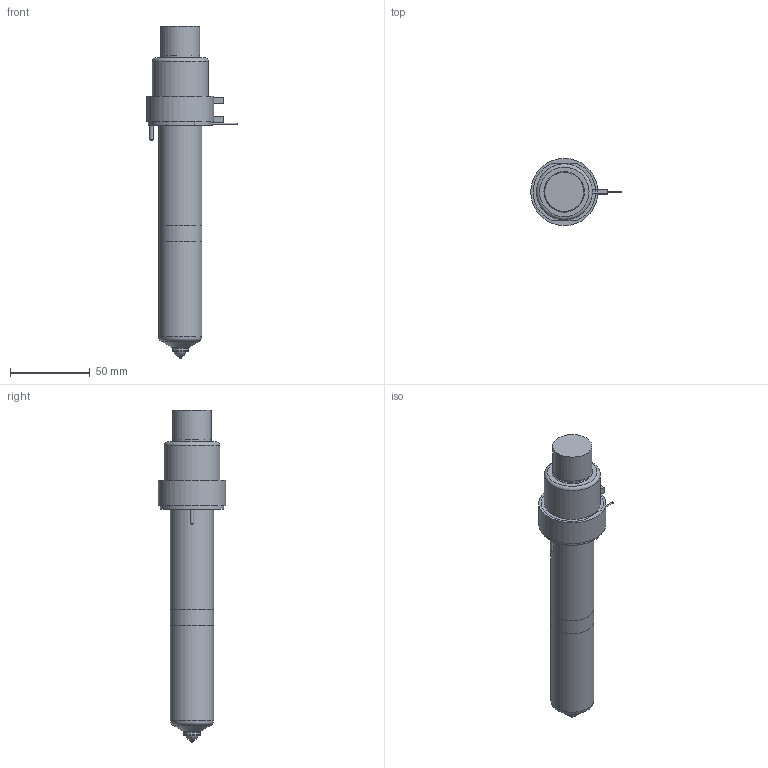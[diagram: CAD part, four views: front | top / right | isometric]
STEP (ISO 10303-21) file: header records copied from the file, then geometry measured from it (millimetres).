
FILE_DESCRIPTION(/* description */ (''),/* implementation_level */ '2;1');
FILE_NAME(/* name */ 'SXOT13145_250C_b',/* time_stamp */ '2007-01-24T17:14:59+13:00',/* author */ (''),/* organization */ (''),/* preprocessor_version */ 'ST-DEVELOPER v9',/* originating_system */ 'UGS - NX 4.0',/* authorisation */ '');
FILE_SCHEMA (('CONFIG_CONTROL_DESIGN'));
Length unit declared in the file: millimetre
Products named in the file (1): SXOT13145_250C_b
Bounding box: 56.65 x 42 x 207.68 mm (x, y, z)
Volume: 234261.6 mm3; surface area: 41270.7 mm2
Topology: 7 solids, 7 shells, 100 faces, 195 edges, 124 vertices
Faces by surface type: plane 46, cylinder 30, cone 11, torus 10, bspline 3
Full cylindrical faces by diameter (mm): 0.9 x1, 1 x3, 2 x2, 6 x1, 6.4 x1, 6.5 x1, 9.61 x1, 10.01 x2, 12.6 x1, 22.2 x1, 24 x1, 24.4 x1, 27 x2, 31.8 x1, 35 x1, 40 x1, 42 x1
Entity records: 2456 total; most frequent: CARTESIAN_POINT 516, DIRECTION 410, ORIENTED_EDGE 284, AXIS2_PLACEMENT_3D 180, EDGE_LOOP 158, EDGE_CURVE 142, VERTEX_POINT 115, ADVANCED_FACE 100
